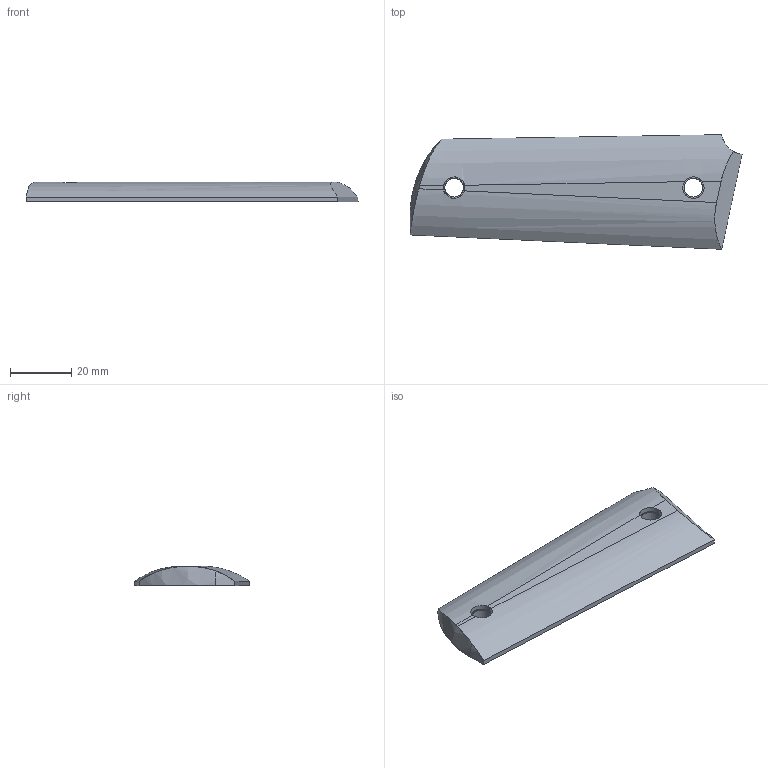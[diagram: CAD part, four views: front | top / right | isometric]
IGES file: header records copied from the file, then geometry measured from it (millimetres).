
Start section: SolidWorks IGES file using analytic representation for surfaces
Global section: file name: \\PSSILO\catalogs\CONTENTCENTRAL\1911_grips_blank_left\Cache\5E70C757-C5F7-49D6-80D0-D853A8FEB993.IGS; native system: SolidWorks 2009; preprocessor: SolidWorks 2009; author: partstream; date: 090213.061907; units: inch
Bounding box: 108.39 x 37.39 x 6.35 mm (x, y, z)
Surface area: 7941.9 mm2 (no closed solid volume)
Topology: 0 solids, 0 shells, 28 faces, 588 edges, 588 vertices
Faces by surface type: revolution 16, bspline 12
